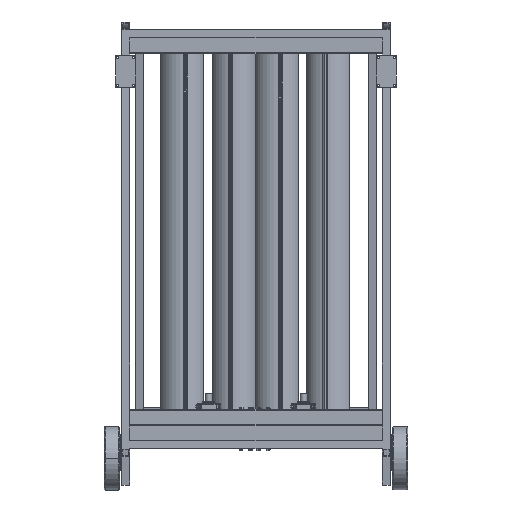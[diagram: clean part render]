
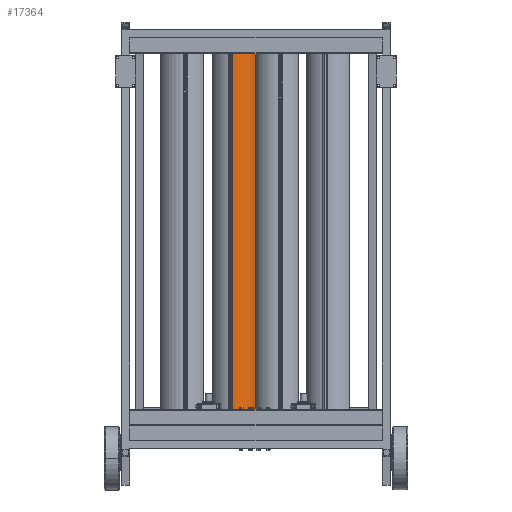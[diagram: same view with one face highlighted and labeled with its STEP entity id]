
A CAD part, top view. The second image highlights one B-rep face of the part: STEP entity #17364.
In plain terms, the highlighted cylindrical face has radius 76.103 mm (diameter 152.207 mm), a partial arc.
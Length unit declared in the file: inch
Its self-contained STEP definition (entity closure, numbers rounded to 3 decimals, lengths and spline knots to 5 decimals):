
#6741 = CARTESIAN_POINT ( 'NONE',  ( 0.04379, -1.11468, 0. ) ) ;
#6743 = DIRECTION ( 'NONE',  ( 0., 0., 1. ) ) ;
#6744 = DIRECTION ( 'NONE',  ( 1., 0., 0. ) ) ;
#6779 = CARTESIAN_POINT ( 'NONE',  ( 0.04379, -1.11468, 47. ) ) ;
#6781 = DIRECTION ( 'NONE',  ( 0., 0., 1. ) ) ;
#6783 = DIRECTION ( 'NONE',  ( 1., 0., 0. ) ) ;
#6862 = LINE ( 'NONE', #6865, #7462 ) ;
#6865 = CARTESIAN_POINT ( 'NONE',  ( 0.21331, 1.87672, 47. ) ) ;
#6867 = DIRECTION ( 'NONE',  ( 0., 0., -1. ) ) ;
#6869 = LINE ( 'NONE', #6872, #7463 ) ;
#6872 = CARTESIAN_POINT ( 'NONE',  ( -2.62633, 0.24461, 47. ) ) ;
#6874 = DIRECTION ( 'NONE',  ( 0., 0., -1. ) ) ;
#7384 = CIRCLE ( 'NONE', #7411, 2.9962 ) ;
#7411 = AXIS2_PLACEMENT_3D ( 'NONE', #6741, #6743, #6744 ) ;
#7424 = CIRCLE ( 'NONE', #7430, 2.9962 ) ;
#7430 = AXIS2_PLACEMENT_3D ( 'NONE', #6779, #6781, #6783 ) ;
#7462 = VECTOR ( 'NONE', #6867, 39.37008 ) ;
#7463 = VECTOR ( 'NONE', #6874, 39.37008 ) ;
#17364 = ADVANCED_FACE ( 'NONE', ( #36043 ), #36046, .T. ) ;
#20480 = VERTEX_POINT ( 'NONE', #37861 ) ;
#20484 = VERTEX_POINT ( 'NONE', #37865 ) ;
#20485 = VERTEX_POINT ( 'NONE', #37866 ) ;
#20489 = VERTEX_POINT ( 'NONE', #37870 ) ;
#26699 = EDGE_CURVE ( 'NONE', #20485, #20484, #7384, .T. ) ;
#26704 = EDGE_CURVE ( 'NONE', #20480, #20489, #7424, .T. ) ;
#26715 = EDGE_CURVE ( 'NONE', #20480, #20485, #6862, .T. ) ;
#26716 = EDGE_CURVE ( 'NONE', #20489, #20484, #6869, .T. ) ;
#27209 = EDGE_LOOP ( 'NONE', ( #27676, #27677, #27678, #27679 ) ) ;
#27676 = ORIENTED_EDGE ( 'NONE', *, *, #26704, .F. ) ;
#27677 = ORIENTED_EDGE ( 'NONE', *, *, #26715, .T. ) ;
#27678 = ORIENTED_EDGE ( 'NONE', *, *, #26699, .T. ) ;
#27679 = ORIENTED_EDGE ( 'NONE', *, *, #26716, .F. ) ;
#36036 = DIRECTION ( 'NONE',  ( 0., 0., -1. ) ) ;
#36043 = FACE_OUTER_BOUND ( 'NONE', #27209, .T. ) ;
#36044 = CARTESIAN_POINT ( 'NONE',  ( 0.04379, -1.11468, 47. ) ) ;
#36046 = CYLINDRICAL_SURFACE ( 'NONE', #43586, 2.9962 ) ;
#36047 = DIRECTION ( 'NONE',  ( -1., 0., 0. ) ) ;
#37861 = CARTESIAN_POINT ( 'NONE',  ( 0.21331, 1.87672, 47. ) ) ;
#37865 = CARTESIAN_POINT ( 'NONE',  ( -2.62633, 0.24461, 0. ) ) ;
#37866 = CARTESIAN_POINT ( 'NONE',  ( 0.21331, 1.87672, 0. ) ) ;
#37870 = CARTESIAN_POINT ( 'NONE',  ( -2.62633, 0.24461, 47. ) ) ;
#43586 = AXIS2_PLACEMENT_3D ( 'NONE', #36044, #36036, #36047 ) ;
